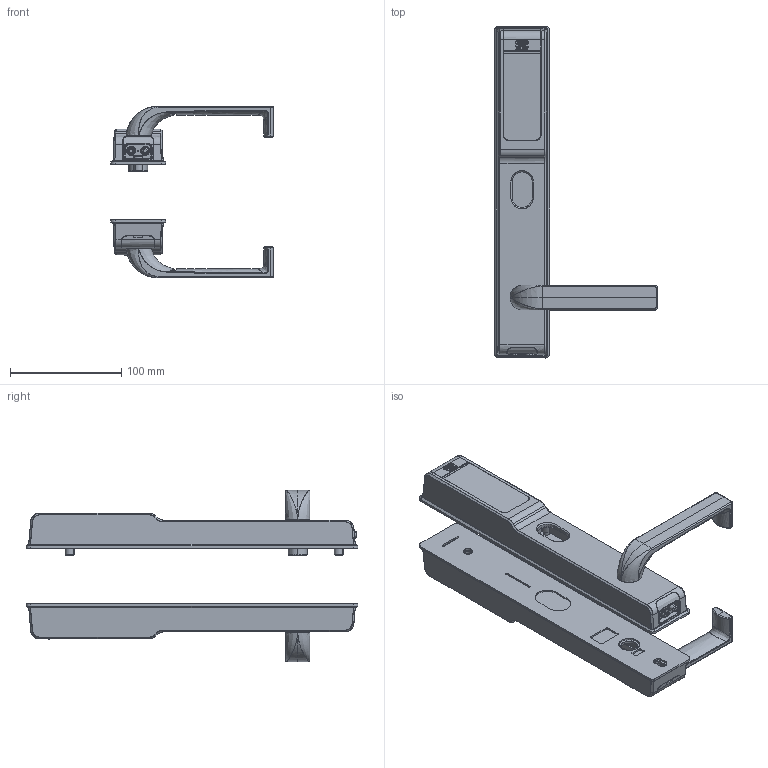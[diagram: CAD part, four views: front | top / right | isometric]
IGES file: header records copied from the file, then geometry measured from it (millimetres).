
Start section: SolidWorks IGES file using analytic representation for surfaces
Global section: file name: C:\UGS\SW_working_directory\CTX5782 IGS assy.IGS; native system: SolidWorks 2016; preprocessor: SolidWorks 2016; author: cracas; date: 160927.152617; units: millimetre
Bounding box: 146.2 x 298.4 x 154.3 mm (x, y, z)
Surface area: 166162.6 mm2 (no closed solid volume)
Topology: 0 solids, 0 shells, 690 faces, 10911 edges, 10901 vertices
Faces by surface type: bspline 421, revolution 269
